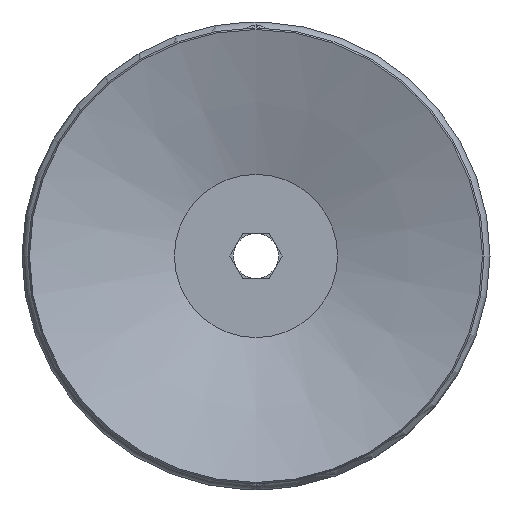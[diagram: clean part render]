
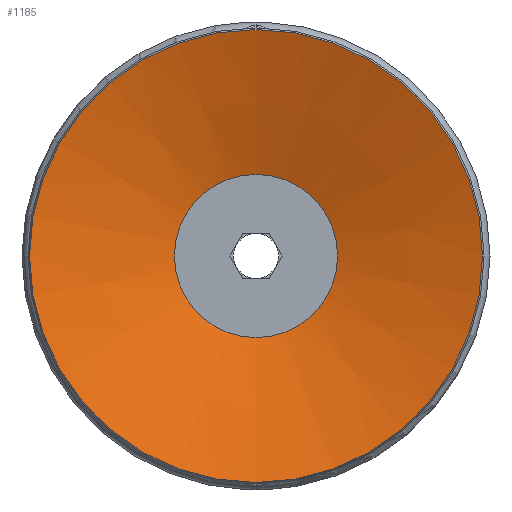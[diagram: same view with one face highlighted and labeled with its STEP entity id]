
A CAD part, front view. The second image highlights one B-rep face of the part: STEP entity #1185.
In plain terms, the highlighted conical face has half-angle 71.075 degrees and reference radius 15 mm.
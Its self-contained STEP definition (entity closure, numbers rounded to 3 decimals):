
#1185=ADVANCED_FACE('',(#2927,#2928),#2929,.F.);
#2927=FACE_BOUND('',#5310,.T.);
#2928=FACE_OUTER_BOUND('',#5311,.T.);
#2929=CONICAL_SURFACE('',#5312,15.0,1.24);
#5310=EDGE_LOOP('',(#8725));
#5311=EDGE_LOOP('',(#8726));
#5312=AXIS2_PLACEMENT_3D('',#8727,#8728,#8729);
#8725=ORIENTED_EDGE('',*,*,#15490,.T.);
#8726=ORIENTED_EDGE('',*,*,#15491,.T.);
#8727=CARTESIAN_POINT('',(0.,0.,0.0));
#8728=DIRECTION('',(0.0,0.,-1.0));
#8729=DIRECTION('',(0.0,1.0,0.));
#15490=EDGE_CURVE('',#19087,#19087,#19088,.T.);
#15491=EDGE_CURVE('',#19089,#19089,#19090,.T.);
#19087=VERTEX_POINT('',#25482);
#19088=CIRCLE('',#25483,5.4);
#19089=VERTEX_POINT('',#25484);
#19090=CIRCLE('',#25485,15.0);
#25482=CARTESIAN_POINT('',(-5.4,0.,3.291));
#25483=AXIS2_PLACEMENT_3D('',#30650,#30651,#30652);
#25484=CARTESIAN_POINT('',(0.,15.0,0.));
#25485=AXIS2_PLACEMENT_3D('',#30653,#30654,#30655);
#30650=CARTESIAN_POINT('',(0.,0.,3.291));
#30651=DIRECTION('',(0.,0.0,1.0));
#30652=DIRECTION('',(-1.0,0.0,0.));
#30653=CARTESIAN_POINT('',(0.,0.,0.0));
#30654=DIRECTION('',(0.0,0.,-1.0));
#30655=DIRECTION('',(0.0,1.0,0.));
